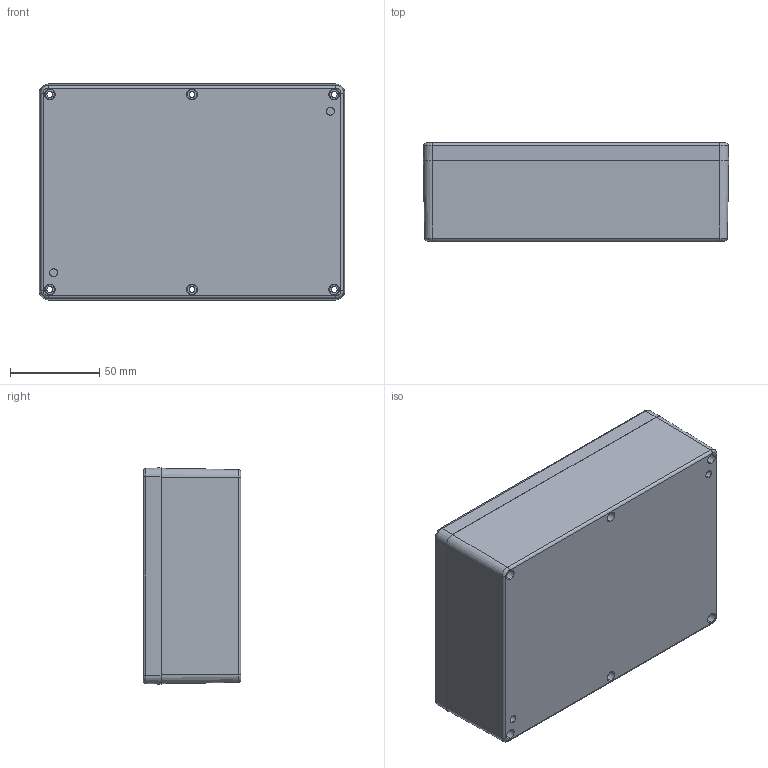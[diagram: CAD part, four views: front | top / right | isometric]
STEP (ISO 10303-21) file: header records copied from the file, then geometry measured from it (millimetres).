
FILE_DESCRIPTION (( 'STEP AP203' ), '1' );
FILE_NAME ('SE-329-0-0.STEP', '2020-02-07T07:46:57', ( '' ), ( '' ), 'SwSTEP 2.0', 'SolidWorks 2020', '' );
FILE_SCHEMA (( 'CONFIG_CONTROL_DESIGN' ));
Length unit declared in the file: millimetre
Products named in the file (3): SE-329-P-2; SE-329-0-0; SE-329-P-1
Assembly tree (2 placements, depth 2):
  SE-329-0-0
    SE-329-P-2
    SE-329-P-1
Bounding box: 171 x 54.7 x 121 mm (x, y, z)
Volume: 236896.6 mm3; surface area: 150699.3 mm2
Topology: 2 solids, 2 shells, 330 faces, 887 edges, 578 vertices
Faces by surface type: cone 147, plane 123, cylinder 52, torus 8
Entity records: 10790 total; most frequent: DIRECTION 1939, CARTESIAN_POINT 1806, ORIENTED_EDGE 1774, EDGE_CURVE 887, AXIS2_PLACEMENT_3D 719, VERTEX_POINT 578, VECTOR 501, LINE 501
